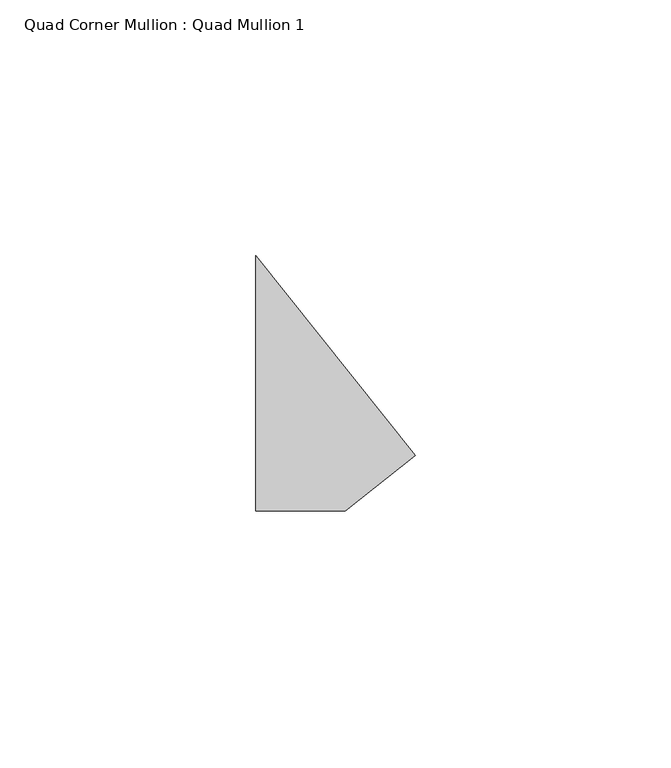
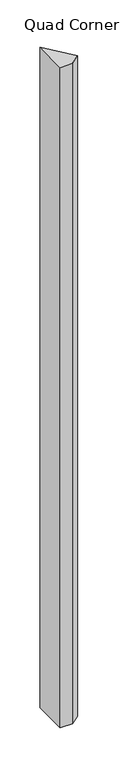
"""IFC4 building model written with IfcOpenShell, lengths in millimetres: member geometry, Quad Corner Mullion : Quad Mullion 1."""

import ifcopenshell
import ifcopenshell.guid

model = None  # the IFC model being written
_history = None  # IfcOwnerHistory: only IFC2X3 demands one
_inside = {}  # id of a spatial element -> (the spatial element, [elements in it])
_under = {}  # id of a project, library or spatial element -> (it, [spatial elements below it])
_declared = {}  # id of a project -> (the project, [libraries it declares])
_typed = {}  # id of a type object -> (the type object, [elements of that type])
_made_of = {}  # id of a material, layer set ... -> (it, [elements and type objects made of it])


def new_model(schema):
    """Start an empty IFC model of exactly this schema.

    Asked for "IFC4X3", IfcOpenShell would pick the latest addendum, in which some entities
    have other attributes; the version numbers below select the first issue.
    IFC2X3 requires an IfcOwnerHistory on every rooted entity: one is made here for all.
    """
    global model, _history
    if schema == "IFC4X3":
        model = ifcopenshell.file(schema_version=(4, 3, 0, 0))
    else:
        model = ifcopenshell.file(schema=schema)
    _inside.clear()
    _under.clear()
    _declared.clear()
    _typed.clear()
    _made_of.clear()
    _history = None
    if model.schema == "IFC2X3":
        org = make("IfcOrganization", Name="unknown")
        user = make(
            "IfcPersonAndOrganization",
            ThePerson=make("IfcPerson", FamilyName="unknown"),
            TheOrganization=org,
        )
        app = make(
            "IfcApplication",
            ApplicationDeveloper=org,
            Version="unknown",
            ApplicationFullName="unknown",
            ApplicationIdentifier="unknown",
        )
        _history = make(
            "IfcOwnerHistory",
            OwningUser=user,
            OwningApplication=app,
            ChangeAction="ADDED",
            CreationDate=0,
        )
    return model


def make(cls, **values):
    """One entity of the class cls with the attributes given. An attribute that is None is left unset."""
    return model.create_entity(
        cls, **{name: value for name, value in values.items() if value is not None}
    )


def rooted(cls, **values):
    """An entity with a GlobalId (a new one), such as an element, a storey or a relation."""
    return make(cls, GlobalId=ifcopenshell.guid.new(), OwnerHistory=_history, **values)


def si_unit(unit_type, name, prefix=None):
    """IfcSIUnit, for example si_unit("LENGTHUNIT", "METRE", prefix="MILLI")."""
    return make("IfcSIUnit", UnitType=unit_type, Prefix=prefix, Name=name)


def assignment(units):
    """IfcUnitAssignment: the units of a project."""
    return None if units is None else make("IfcUnitAssignment", Units=units)


def point(xyz):
    """IfcCartesianPoint."""
    return None if xyz is None else make("IfcCartesianPoint", Coordinates=xyz)


def direction(xyz):
    """IfcDirection."""
    return None if xyz is None else make("IfcDirection", DirectionRatios=xyz)


def frame(location, z_axis=None, x_axis=None):
    """IfcAxis2Placement3D, a coordinate frame: its origin and axes. An axis left out is left unset."""
    return make(
        "IfcAxis2Placement3D",
        Location=point(location),
        Axis=direction(z_axis),
        RefDirection=direction(x_axis),
    )


def origin():
    """The frame at (0, 0, 0) with its axes left unset."""
    return frame((0.0, 0.0, 0.0))


def place(relative_to, where):
    """IfcLocalPlacement: puts the frame where relative to a parent placement (None: the world)."""
    return make(
        "IfcLocalPlacement", PlacementRelTo=relative_to, RelativePlacement=where
    )


def context(
    kind, dimensions, precision=None, world=None, true_north=None, identifier=None
):
    """IfcGeometricRepresentationContext, for example the 3D "Model" context."""
    return make(
        "IfcGeometricRepresentationContext",
        ContextIdentifier=identifier,
        ContextType=kind,
        CoordinateSpaceDimension=dimensions,
        Precision=precision,
        WorldCoordinateSystem=world,
        TrueNorth=true_north,
    )


def project(units=None, contexts=None):
    """IfcProject with its units and contexts."""
    return rooted(
        "IfcProject",
        Name="project",
        RepresentationContexts=contexts,
        UnitsInContext=assignment(units),
    )


def spatial(cls, under=None, at=None, **own):
    """A site, building, storey or space (cls), placed at a placement, below another one or the project."""
    s = rooted(cls, ObjectPlacement=at, **own)
    if under is not None:
        _under.setdefault(under.id(), (under, []))[1].append(s)
    return s


def polyline(points):
    """IfcPolyline through the points."""
    return make("IfcPolyline", Points=[point(p) for p in points])


def outline(outer, holes=None, kind="AREA"):
    """IfcArbitraryClosedProfileDef: a profile drawn as a closed curve; with holes, ...WithVoids."""
    if holes is None:
        return make("IfcArbitraryClosedProfileDef", ProfileType=kind, OuterCurve=outer)
    return make(
        "IfcArbitraryProfileDefWithVoids",
        ProfileType=kind,
        OuterCurve=outer,
        InnerCurves=holes,
    )


def extrude(swept, where, along, depth):
    """IfcExtrudedAreaSolid: the profile swept, set in the frame where, extruded along a direction by depth."""
    return make(
        "IfcExtrudedAreaSolid",
        SweptArea=swept,
        Position=where,
        ExtrudedDirection=direction(along),
        Depth=depth,
    )


def shape(context_of_items, identifier, shape_type, items):
    """IfcShapeRepresentation: the items that make up one representation, for example the "Body"."""
    return make(
        "IfcShapeRepresentation",
        ContextOfItems=context_of_items,
        RepresentationIdentifier=identifier,
        RepresentationType=shape_type,
        Items=items,
    )


def source(mapping_origin, context_of_items, identifier, shape_type, items):
    """IfcRepresentationMap: a shape defined once, which mapped items show again and again."""
    return make(
        "IfcRepresentationMap",
        MappingOrigin=mapping_origin,
        MappedRepresentation=shape(context_of_items, identifier, shape_type, items),
    )


def transform(
    local_origin,
    x_axis=None,
    y_axis=None,
    z_axis=None,
    scale=None,
    scale2=None,
    scale3=None,
    uniform=True,
):
    """IfcCartesianTransformationOperator3D, or its non-uniform kind. x_axis, y_axis, z_axis: its Axis1, 2, 3."""
    if uniform:
        return make(
            "IfcCartesianTransformationOperator3D",
            Axis1=direction(x_axis),
            Axis2=direction(y_axis),
            LocalOrigin=point(local_origin),
            Scale=scale,
            Axis3=direction(z_axis),
        )
    return make(
        "IfcCartesianTransformationOperator3DnonUniform",
        Axis1=direction(x_axis),
        Axis2=direction(y_axis),
        LocalOrigin=point(local_origin),
        Scale=scale,
        Axis3=direction(z_axis),
        Scale2=scale2,
        Scale3=scale3,
    )


def mapped(mapping_source, mapping_target):
    """IfcMappedItem: shows the shape of a source again, moved by a transform."""
    return make(
        "IfcMappedItem", MappingSource=mapping_source, MappingTarget=mapping_target
    )


def made_of(thing, what):
    """Note that an element or type object is made of a material, layer set ...; save() writes the relation."""
    if what is not None:
        _made_of.setdefault(what.id(), (what, []))[1].append(thing)
    return thing


def element(
    cls,
    number,
    at=None,
    inside=None,
    cuts=None,
    type_object=None,
    material=None,
    context=None,
    identifier="Body",
    shape_type=None,
    held_by="IfcProductDefinitionShape",
    body=None,
    shapes=None,
    **own,
):
    """One element of the class cls, such as IfcWall. Its Tag is "e" and its number.

    at: its placement. inside: the storey or other place that contains it. cuts: it is an
    opening in that element (IfcRelVoidsElement). A single representation is given by context,
    identifier, shape_type and body (its items); several are given by shapes. held_by: the class
    of the entity that holds the representations. save() writes the other relations.
    """
    e = rooted(cls, Tag="e%d" % number, ObjectPlacement=at, **own)
    if body is not None:
        shapes = [shape(context, identifier, shape_type, body)]
    if shapes is not None:
        e.Representation = make(held_by, Representations=shapes)
    if inside is not None:
        _inside.setdefault(inside.id(), (inside, []))[1].append(e)
    if cuts is not None:
        rooted(
            "IfcRelVoidsElement", RelatingBuildingElement=cuts, RelatedOpeningElement=e
        )
    if type_object is not None:
        _typed.setdefault(type_object.id(), (type_object, []))[1].append(e)
    return made_of(e, material)


def aggregate(whole, parts):
    """IfcRelAggregates: a whole, such as a stair, and the parts it consists of."""
    return rooted("IfcRelAggregates", RelatingObject=whole, RelatedObjects=parts)


def save(model, path):
    """Write the relations noted so far, then the file.

    IfcRelAggregates (storeys below a building ...), IfcRelContainedInSpatialStructure (elements
    in a storey), IfcRelDefinesByType, IfcRelAssociatesMaterial and IfcRelDeclares: one each for
    every whole, place, type object, material and project.
    """
    for whole, parts in _under.values():
        aggregate(whole, parts)
    for where, things in _inside.values():
        rooted(
            "IfcRelContainedInSpatialStructure",
            RelatedElements=things,
            RelatingStructure=where,
        )
    for kind, things in _typed.values():
        rooted("IfcRelDefinesByType", RelatedObjects=things, RelatingType=kind)
    for what, things in _made_of.values():
        rooted("IfcRelAssociatesMaterial", RelatedObjects=things, RelatingMaterial=what)
    for by, libraries in _declared.values():
        rooted("IfcRelDeclares", RelatingContext=by, RelatedDefinitions=libraries)
    model.write(path)


def quad_corner_mullion_quad_mullion_1_1db0ea22(model_context):
    return source(origin(), model_context, "Body", "SweptSolid", [
        extrude(outline(polyline([(22.4169637, -14.1035695), (8.7424787, -25.0), (-8.7424787, -25.0), (-8.7424787, 25.0), (22.4169637, -14.1035695)])), frame((0.0, 0.0, -1000.0), z_axis=(0.0, 0.0, 1.0), x_axis=(1.0, 0.0, 0.0)), (0.0, 0.0, 1.0), 1000.0),
    ])


if __name__ == "__main__":
    model = new_model("IFC4")
    model_context = context("Model", 3, world=origin())
    ifc_project = project(units=[si_unit("LENGTHUNIT", "METRE", prefix="MILLI")], contexts=[model_context])
    site = spatial("IfcSite", under=ifc_project)
    building = spatial("IfcBuilding", under=site)
    placement = place(None, origin())
    quad_corner_mullion_quad_mullion_1_shape = quad_corner_mullion_quad_mullion_1_1db0ea22(model_context)
    element("IfcMember", 1, ObjectType="Quad Corner Mullion : Quad Mullion 1", at=placement, inside=building, context=model_context, shape_type="MappedRepresentation", body=[
        mapped(quad_corner_mullion_quad_mullion_1_shape, transform((0.0, 0.0, 0.0), x_axis=(1.0, 0.0, 0.0), y_axis=(0.0, 1.0, 0.0), z_axis=(0.0, 0.0, 1.0))),
    ])
    save(model, "model.ifc")
